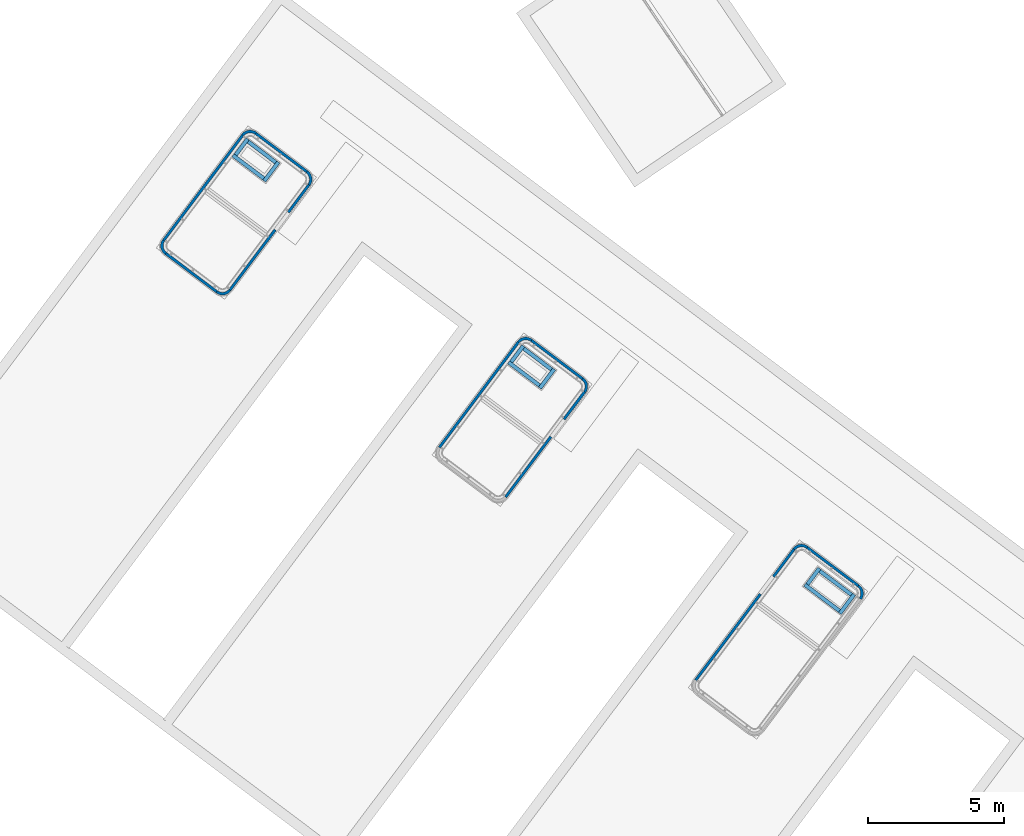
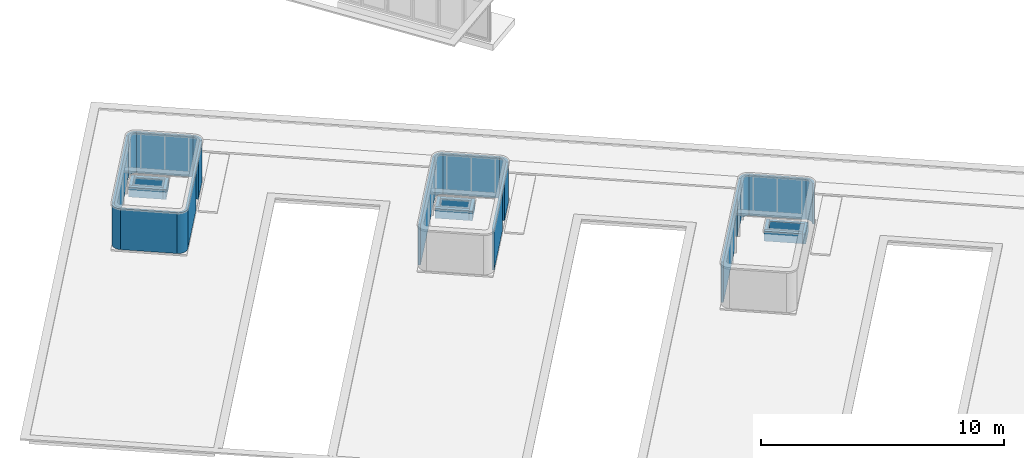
# One storey, part 21 of 28: 29 walls, 3 openings.
"""IFC2X3 building model written with IfcOpenShell, lengths in metres."""

from ifc_helpers import new_model, entity, si_unit, converted_unit, derived_unit, direction, frame, frame_2d, origin, origin_2d_with_axis, place, context, subcontext, project, spatial, polyline, circle_curve, parameter, trimmed, segment, composite_curve, rectangle, outline, extrude, material, layer, layer_set, layer_usage, type_object, element, save


model = new_model("IFC2X3")

# Units and contexts
model_context = context("Model", 3, precision=1e-05, world=origin(), true_north=direction((6.123031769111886e-17, 1.0)))
body_context = subcontext(model_context, "Body", "Model", "MODEL_VIEW")
ifc_project = project(units=[si_unit("LENGTHUNIT", "METRE"), si_unit("AREAUNIT", "SQUARE_METRE"), si_unit("VOLUMEUNIT", "CUBIC_METRE"), converted_unit("PLANEANGLEUNIT", "DEGREE", entity("IfcRatioMeasure", 0.017453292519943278), si_unit("PLANEANGLEUNIT", "RADIAN"), dimensions=[0, 0, 0, 0, 0, 0, 0]), si_unit("MASSUNIT", "GRAM", prefix="KILO"), derived_unit("MASSDENSITYUNIT", [(si_unit("MASSUNIT", "GRAM", prefix="KILO"), 1), (si_unit("LENGTHUNIT", "METRE"), -3)]), derived_unit("IONCONCENTRATIONUNIT", [(si_unit("MASSUNIT", "GRAM", prefix="KILO"), 1), (si_unit("LENGTHUNIT", "METRE"), -3)]), derived_unit("MOMENTOFINERTIAUNIT", [(si_unit("LENGTHUNIT", "METRE"), 4)]), si_unit("TIMEUNIT", "SECOND"), si_unit("FREQUENCYUNIT", "HERTZ"), si_unit("THERMODYNAMICTEMPERATUREUNIT", "DEGREE_CELSIUS"), derived_unit("THERMALTRANSMITTANCEUNIT", [(si_unit("MASSUNIT", "GRAM", prefix="KILO"), 1), (si_unit("THERMODYNAMICTEMPERATUREUNIT", "KELVIN"), -1), (si_unit("TIMEUNIT", "SECOND"), -3)]), derived_unit("THERMALCONDUCTANCEUNIT", [(si_unit("MASSUNIT", "GRAM", prefix="KILO"), 1), (si_unit("THERMODYNAMICTEMPERATUREUNIT", "KELVIN"), -1), (si_unit("TIMEUNIT", "SECOND"), -3), (si_unit("LENGTHUNIT", "METRE"), 1)]), derived_unit("VOLUMETRICFLOWRATEUNIT", [(si_unit("LENGTHUNIT", "METRE"), 3), (si_unit("TIMEUNIT", "SECOND"), -1)]), derived_unit("MASSFLOWRATEUNIT", [(si_unit("MASSUNIT", "GRAM", prefix="KILO"), 1), (si_unit("TIMEUNIT", "SECOND"), -1)]), derived_unit("ROTATIONALFREQUENCYUNIT", [(si_unit("TIMEUNIT", "SECOND"), -1)]), si_unit("ELECTRICCURRENTUNIT", "AMPERE"), si_unit("ELECTRICVOLTAGEUNIT", "VOLT"), si_unit("POWERUNIT", "WATT"), si_unit("FORCEUNIT", "NEWTON", prefix="KILO"), si_unit("ILLUMINANCEUNIT", "LUX"), si_unit("LUMINOUSFLUXUNIT", "LUMEN"), si_unit("LUMINOUSINTENSITYUNIT", "CANDELA"), derived_unit("USERDEFINED", [(si_unit("MASSUNIT", "GRAM", prefix="KILO"), -1), (si_unit("LENGTHUNIT", "METRE"), -2), (si_unit("TIMEUNIT", "SECOND"), 3), (si_unit("LUMINOUSFLUXUNIT", "LUMEN"), 1)]), derived_unit("USERDEFINED", [(si_unit("MASSUNIT", "GRAM", prefix="KILO"), 1), (si_unit("TIMEUNIT", "SECOND"), -3), (si_unit("LENGTHUNIT", "METRE"), 3), (si_unit("ELECTRICCURRENTUNIT", "AMPERE"), -2)]), derived_unit("SOUNDPOWERUNIT", [(si_unit("MASSUNIT", "GRAM", prefix="KILO"), 1), (si_unit("TIMEUNIT", "SECOND"), -3), (si_unit("LENGTHUNIT", "METRE"), 2)]), derived_unit("SOUNDPRESSUREUNIT", [(si_unit("MASSUNIT", "GRAM", prefix="KILO"), 1), (si_unit("LENGTHUNIT", "METRE"), -1), (si_unit("TIMEUNIT", "SECOND"), -2)]), derived_unit("LINEARVELOCITYUNIT", [(si_unit("LENGTHUNIT", "METRE"), 1), (si_unit("TIMEUNIT", "SECOND"), -1)]), si_unit("PRESSUREUNIT", "PASCAL"), derived_unit("USERDEFINED", [(si_unit("MASSUNIT", "GRAM", prefix="KILO"), 1), (si_unit("LENGTHUNIT", "METRE"), -2), (si_unit("TIMEUNIT", "SECOND"), -2)]), derived_unit("LINEARFORCEUNIT", [(si_unit("MASSUNIT", "GRAM", prefix="KILO"), 1), (si_unit("TIMEUNIT", "SECOND"), -2)]), derived_unit("PLANARFORCEUNIT", [(si_unit("MASSUNIT", "GRAM", prefix="KILO"), 1), (si_unit("LENGTHUNIT", "METRE"), -1), (si_unit("TIMEUNIT", "SECOND"), -2)]), derived_unit("SPECIFICHEATCAPACITYUNIT", [(si_unit("THERMODYNAMICTEMPERATUREUNIT", "KELVIN"), -1), (si_unit("LENGTHUNIT", "METRE"), 2), (si_unit("TIMEUNIT", "SECOND"), -2)]), derived_unit("HEATINGVALUEUNIT", [(si_unit("LENGTHUNIT", "METRE"), 2), (si_unit("TIMEUNIT", "SECOND"), -2)]), derived_unit("VAPORPERMEABILITYUNIT", [(si_unit("LENGTHUNIT", "METRE"), -1), (si_unit("TIMEUNIT", "SECOND"), 1)]), derived_unit("DYNAMICVISCOSITYUNIT", [(si_unit("MASSUNIT", "GRAM", prefix="KILO"), 1), (si_unit("TIMEUNIT", "SECOND"), -1), (si_unit("LENGTHUNIT", "METRE"), -1)]), derived_unit("THERMALEXPANSIONCOEFFICIENTUNIT", [(si_unit("THERMODYNAMICTEMPERATUREUNIT", "KELVIN"), -1)]), derived_unit("MODULUSOFELASTICITYUNIT", [(si_unit("MASSUNIT", "GRAM", prefix="KILO"), 1), (si_unit("LENGTHUNIT", "METRE"), -1), (si_unit("TIMEUNIT", "SECOND"), -2)]), derived_unit("ISOTHERMALMOISTURECAPACITYUNIT", [(si_unit("LENGTHUNIT", "METRE"), 3), (si_unit("MASSUNIT", "GRAM", prefix="KILO"), -1)]), derived_unit("MOISTUREDIFFUSIVITYUNIT", [(si_unit("TIMEUNIT", "SECOND"), -1), (si_unit("LENGTHUNIT", "METRE"), 2)])], contexts=[model_context])

# Site, building, storey
site_placement = place(None, frame((0.0, 0.0, 235.0), z_axis=(0.0, 0.0, 1.0), x_axis=(-0.7996477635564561, 0.6004693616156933, 0.0)))
site = spatial("IfcSite", under=ifc_project, at=site_placement, Name="Default", CompositionType="ELEMENT")
building_placement = place(site_placement, origin())
building = spatial("IfcBuilding", under=site, at=building_placement, CompositionType="ELEMENT")
storey_placement = place(building_placement, frame((0.0, 0.0, 3.400000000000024)))
storey = spatial("IfcBuildingStorey", under=building, at=storey_placement, Name="PC- Coberta STR", CompositionType="ELEMENT", Elevation=3.400000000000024)

# Walls
ifc_material_1 = material(Name="_Ceràmica- ENV")
ifc_layer_1 = layer(ifc_material_1, 0.14)
ifc_layer_set_1 = layer_set([ifc_layer_1], Name="Muro básico:ENV- Ceràmic- 14 cm")
ifc_layer_usage_1 = layer_usage(ifc_layer_set_1, "AXIS2", "NEGATIVE", 0.07)
wall_type_1 = type_object("IfcWallType", Name="Muro básico:ENV- Ceràmic- 14 cm", PredefinedType="STANDARD", material=ifc_layer_set_1)
wall_1_placement = place(storey_placement, frame((58.31014768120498, -37.30018994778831, 0.0), z_axis=(0.0, 0.0, 1.0), x_axis=(0.0, 1.0, 0.0)))
element("IfcWallStandardCase", 1, at=wall_1_placement, inside=storey, type_object=wall_type_1, material=ifc_layer_usage_1, Name="Muro básico:ENV- Ceràmic- 14 cm", ObjectType="Muro básico:ENV- Ceràmic- 14 cm", context=body_context, shape_type="SweptSolid", body=[
    extrude(rectangle(XDim=0.8800000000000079, YDim=0.14000000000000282, at=frame_2d((0.44000000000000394, 0.0), x_axis=(-1.0, 0.0))), origin(), (0.0, 0.0, 1.0), 0.5),
])
wall_2_placement = place(storey_placement, frame((58.38014768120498, -36.49018994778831, 0.0)))
element("IfcWallStandardCase", 2, at=wall_2_placement, inside=storey, type_object=wall_type_1, material=ifc_layer_usage_1, Name="Muro básico:ENV- Ceràmic- 14 cm", ObjectType="Muro básico:ENV- Ceràmic- 14 cm", context=body_context, shape_type="SweptSolid", body=[
    extrude(rectangle(XDim=1.4199999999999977, YDim=0.14000000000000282, at=frame_2d((0.7099999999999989, 2.3592239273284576e-16), x_axis=(-1.0, 0.0))), origin(), (0.0, 0.0, 1.0), 0.5),
])
wall_3_placement = place(storey_placement, frame((59.730147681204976, -36.56018994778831, 0.0), z_axis=(0.0, 0.0, 1.0), x_axis=(0.0, -1.0, 0.0)))
element("IfcWallStandardCase", 3, at=wall_3_placement, inside=storey, type_object=wall_type_1, material=ifc_layer_usage_1, Name="Muro básico:ENV- Ceràmic- 14 cm", ObjectType="Muro básico:ENV- Ceràmic- 14 cm", context=body_context, shape_type="SweptSolid", body=[
    extrude(rectangle(XDim=0.740000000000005, YDim=0.14000000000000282, at=frame_2d((0.3700000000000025, 0.0), x_axis=(-1.0, 0.0))), origin(), (0.0, 0.0, 1.0), 0.5),
])
wall_4_placement = place(storey_placement, frame((59.660147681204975, -37.23018994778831, 0.0), z_axis=(0.0, 0.0, 1.0), x_axis=(-1.0, 0.0, 0.0)))
element("IfcWallStandardCase", 4, at=wall_4_placement, inside=storey, type_object=wall_type_1, material=ifc_layer_usage_1, Name="Muro básico:ENV- Ceràmic- 14 cm", ObjectType="Muro básico:ENV- Ceràmic- 14 cm", context=body_context, shape_type="SweptSolid", body=[
    extrude(rectangle(XDim=1.279999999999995, YDim=0.14000000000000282, at=frame_2d((0.6399999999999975, 0.0), x_axis=(-1.0, 0.0))), origin(), (0.0, 0.0, 1.0), 0.5),
])
wall_5_placement = place(storey_placement, frame((71.01014768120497, -37.300189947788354, 0.0), z_axis=(0.0, 0.0, 1.0), x_axis=(0.0, 1.0, 0.0)))
element("IfcWallStandardCase", 5, at=wall_5_placement, inside=storey, type_object=wall_type_1, material=ifc_layer_usage_1, Name="Muro básico:ENV- Ceràmic- 14 cm", ObjectType="Muro básico:ENV- Ceràmic- 14 cm", context=body_context, shape_type="SweptSolid", body=[
    extrude(rectangle(XDim=0.8800000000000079, YDim=0.14000000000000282, at=frame_2d((0.44000000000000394, 0.0), x_axis=(-1.0, 0.0))), origin(), (0.0, 0.0, 1.0), 0.5),
])
wall_6_placement = place(storey_placement, frame((71.08014768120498, -36.49018994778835, 0.0)))
element("IfcWallStandardCase", 6, at=wall_6_placement, inside=storey, type_object=wall_type_1, material=ifc_layer_usage_1, Name="Muro básico:ENV- Ceràmic- 14 cm", ObjectType="Muro básico:ENV- Ceràmic- 14 cm", context=body_context, shape_type="SweptSolid", body=[
    extrude(rectangle(XDim=1.4200000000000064, YDim=0.14000000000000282, at=frame_2d((0.7100000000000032, 2.3592239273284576e-16), x_axis=(-1.0, 0.0))), origin(), (0.0, 0.0, 1.0), 0.5),
])
wall_7_placement = place(storey_placement, frame((72.43014768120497, -36.56018994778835, 0.0), z_axis=(0.0, 0.0, 1.0), x_axis=(0.0, -1.0, 0.0)))
element("IfcWallStandardCase", 7, at=wall_7_placement, inside=storey, type_object=wall_type_1, material=ifc_layer_usage_1, Name="Muro básico:ENV- Ceràmic- 14 cm", ObjectType="Muro básico:ENV- Ceràmic- 14 cm", context=body_context, shape_type="SweptSolid", body=[
    extrude(rectangle(XDim=0.740000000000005, YDim=0.14000000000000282, at=frame_2d((0.3700000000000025, 0.0), x_axis=(-1.0, 0.0))), origin(), (0.0, 0.0, 1.0), 0.5),
])
wall_8_placement = place(storey_placement, frame((72.36014768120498, -37.230189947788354, 0.0), z_axis=(0.0, 0.0, 1.0), x_axis=(-1.0, 0.0, 0.0)))
element("IfcWallStandardCase", 8, at=wall_8_placement, inside=storey, type_object=wall_type_1, material=ifc_layer_usage_1, Name="Muro básico:ENV- Ceràmic- 14 cm", ObjectType="Muro básico:ENV- Ceràmic- 14 cm", context=body_context, shape_type="SweptSolid", body=[
    extrude(rectangle(XDim=1.2800000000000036, YDim=0.14000000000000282, at=frame_2d((0.6400000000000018, 0.0), x_axis=(-1.0, 0.0))), origin(), (0.0, 0.0, 1.0), 0.5),
])
wall_9_placement = place(storey_placement, frame((44.49004613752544, -37.30018994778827, 0.0), z_axis=(0.0, 0.0, 1.0), x_axis=(0.0, 1.0, 0.0)))
element("IfcWallStandardCase", 9, at=wall_9_placement, inside=storey, type_object=wall_type_1, material=ifc_layer_usage_1, Name="Muro básico:ENV- Ceràmic- 14 cm", ObjectType="Muro básico:ENV- Ceràmic- 14 cm", context=body_context, shape_type="SweptSolid", body=[
    extrude(rectangle(XDim=0.8800000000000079, YDim=0.14000000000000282, at=frame_2d((0.44000000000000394, 0.0), x_axis=(-1.0, 0.0))), origin(), (0.0, 0.0, 1.0), 0.5),
])
wall_10_placement = place(storey_placement, frame((44.56004613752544, -36.49018994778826, 0.0)))
element("IfcWallStandardCase", 10, at=wall_10_placement, inside=storey, type_object=wall_type_1, material=ifc_layer_usage_1, Name="Muro básico:ENV- Ceràmic- 14 cm", ObjectType="Muro básico:ENV- Ceràmic- 14 cm", context=body_context, shape_type="SweptSolid", body=[
    extrude(rectangle(XDim=1.6011015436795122, YDim=0.14000000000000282, at=frame_2d((0.8005507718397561, 5.412337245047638e-16), x_axis=(-1.0, 0.0))), origin(), (0.0, 0.0, 1.0), 0.5),
])
wall_11_placement = place(storey_placement, frame((46.09114768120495, -36.56018994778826, 0.0), z_axis=(0.0, 0.0, 1.0), x_axis=(0.0, -1.0, 0.0)))
element("IfcWallStandardCase", 11, at=wall_11_placement, inside=storey, type_object=wall_type_1, material=ifc_layer_usage_1, Name="Muro básico:ENV- Ceràmic- 14 cm", ObjectType="Muro básico:ENV- Ceràmic- 14 cm", context=body_context, shape_type="SweptSolid", body=[
    extrude(rectangle(XDim=0.740000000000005, YDim=0.14000000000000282, at=frame_2d((0.3700000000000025, 0.0), x_axis=(-1.0, 0.0))), origin(), (0.0, 0.0, 1.0), 0.5),
])
wall_12_placement = place(storey_placement, frame((46.02114768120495, -37.23018994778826, 0.0), z_axis=(0.0, 0.0, 1.0), x_axis=(-1.0, 0.0, 0.0)))
element("IfcWallStandardCase", 12, at=wall_12_placement, inside=storey, type_object=wall_type_1, material=ifc_layer_usage_1, Name="Muro básico:ENV- Ceràmic- 14 cm", ObjectType="Muro básico:ENV- Ceràmic- 14 cm", context=body_context, shape_type="SweptSolid", body=[
    extrude(rectangle(XDim=1.4611015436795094, YDim=0.14000000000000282, at=frame_2d((0.7305507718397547, 0.0), x_axis=(-1.0, 0.0))), origin(), (0.0, 0.0, 1.0), 0.5),
])
ifc_material_2 = material(Name="_REV- Xapa minionda")
ifc_layer_2 = layer(ifc_material_2, 0.01)
ifc_material_3 = material(Name="_Genèric perfils, muntants, rastrells")
ifc_layer_3 = layer(ifc_material_3, 0.02)
ifc_material_4 = material(Name="_Aillament")
ifc_layer_4 = layer(ifc_material_4, 0.07)
ifc_layer_set_2 = layer_set([ifc_layer_2, ifc_layer_3, ifc_layer_4], Name="Muro básico:REV- Badalot- Xapa + Aillament")
ifc_layer_usage_2 = layer_usage(ifc_layer_set_2, "AXIS2", "POSITIVE", -0.05)
wall_type_2 = type_object("IfcWallType", Name="Muro básico:REV- Badalot- Xapa + Aillament", PredefinedType="STANDARD", material=ifc_layer_set_2)
wall_13_placement = place(storey_placement, frame((59.96018545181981, -37.30335289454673, 0.4), z_axis=(0.0, 0.0, 1.0), x_axis=(0.0, 1.0, 0.0)))
element("IfcWallStandardCase", 13, at=wall_13_placement, inside=storey, type_object=wall_type_2, material=ifc_layer_usage_2, Name="Muro básico:REV- Badalot- Xapa + Aillament", ObjectType="Muro básico:REV- Badalot- Xapa + Aillament", context=body_context, shape_type="SweptSolid", body=[
    extrude(outline(polyline([(4.849322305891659, -0.05000000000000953), (4.848161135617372, 0.04999999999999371), (0.0011611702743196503, 0.04999999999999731), (0.0, -0.050000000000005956), (4.849322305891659, -0.05000000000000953)])), origin(), (0.0, 0.0, 1.0), 2.05),
])

# Wall, opening
ifc_layer_usage_3 = layer_usage(ifc_layer_set_2, "AXIS2", "NEGATIVE", 0.05)
wall_14_placement = place(storey_placement, frame((56.91018541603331, -37.30335289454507, 0.4), z_axis=(0.0, 0.0, 1.0), x_axis=(0.0, 1.0, 0.0)))
wall_14 = element("IfcWallStandardCase", 14, at=wall_14_placement, inside=storey, type_object=wall_type_2, material=ifc_layer_usage_3, Name="Muro básico:REV- Badalot- Xapa + Aillament", ObjectType="Muro básico:REV- Badalot- Xapa + Aillament", context=body_context, shape_type="SweptSolid", body=[
    extrude(outline(polyline([(0.0011611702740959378, -0.050000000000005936), (4.848161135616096, -0.05000000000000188), (4.849322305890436, 0.0500000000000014), (0.0, 0.0499999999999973), (0.0011611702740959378, -0.050000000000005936)])), origin(), (0.0, 0.0, 1.0), 2.05),
])
opening_1_placement = place(wall_14_placement, frame((1.2691455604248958, 1.4739999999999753, 0.0), z_axis=(0.0, 0.0, 1.0), x_axis=(0.0, -1.0, 0.0)))
element("IfcOpeningElement", 15, at=opening_1_placement, cuts=wall_14, Name="Muro básico:REV- Badalot- Xapa + Aillament", ObjectType="Opening", context=body_context, shape_type="SweptSolid", body=[
    extrude(rectangle(XDim=1.999999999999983, YDim=0.8, at=frame_2d((0.0, 0.0), x_axis=(0.0, 1.0))), frame((3.048000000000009, 0.4, 1.0), z_axis=(-1.0, 0.0, 0.0), x_axis=(0.0, -1.0, 0.0)), (0.0, 0.0, 1.0), 3.048),
])

# Walls
wall_15_placement = place(storey_placement, frame((57.26028711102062, -37.64219172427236, 0.4)))
element("IfcWallStandardCase", 16, at=wall_15_placement, inside=storey, type_object=wall_type_2, material=ifc_layer_usage_2, Name="Muro básico:REV- Badalot- Xapa + Aillament", ObjectType="Muro básico:REV- Badalot- Xapa + Aillament", context=body_context, shape_type="SweptSolid", body=[
    extrude(outline(polyline([(2.349369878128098, -0.04999999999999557), (2.3497966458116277, 0.050000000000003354), (0.0, 0.050000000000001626), (0.00042676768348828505, -0.04999999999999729), (2.349369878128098, -0.04999999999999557)])), origin(), (0.0, 0.0, 1.0), 2.05),
])
wall_16_placement = place(storey_placement, frame((59.9601971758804, -37.30227018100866, 0.4), z_axis=(0.0, 0.0, 1.0), x_axis=(0.0, 1.0, 0.0)))
element("IfcWallStandardCase", 17, at=wall_16_placement, inside=storey, type_object=wall_type_2, material=ifc_layer_usage_2, Name="Muro básico:REV- Badalot- Xapa + Aillament", ObjectType="Muro básico:REV- Badalot- Xapa + Aillament", context=body_context, shape_type="SweptSolid", body=[
    extrude(outline(composite_curve([segment(trimmed(circle_curve(frame_2d((0.00752395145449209, 0.3473766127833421), x_axis=(1.0, 0.0)), 0.3974580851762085), [parameter(179.54394851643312)], [parameter(268.7592046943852)], True, "PARAMETER"), True, "CONTINUOUS"), segment(polyline([(-0.0010827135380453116, -0.04998827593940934), (7.845673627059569e-05, 0.050011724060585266)]), True, "CONTINUOUS"), segment(trimmed(circle_curve(frame_2d((0.00752395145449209, 0.3473766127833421), x_axis=(1.0, 0.0)), 0.29745808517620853), [parameter(179.4728344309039)], [parameter(268.5657139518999)], True, "PARAMETER"), False, "CONTINUOUS"), segment(polyline([(-0.2899215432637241, 0.3501134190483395), (-0.38992154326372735, 0.35054018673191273)]), True, "CONTINUOUS")], self_intersect=False)), origin(), (0.0, 0.0, 1.0), 2.05),
])
wall_17_placement = place(storey_placement, frame((56.91017369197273, -37.30227018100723, 0.4), z_axis=(0.0, 0.0, 1.0), x_axis=(0.0, 1.0, 0.0)))
element("IfcWallStandardCase", 18, at=wall_17_placement, inside=storey, type_object=wall_type_2, material=ifc_layer_usage_2, Name="Muro básico:REV- Badalot- Xapa + Aillament", ObjectType="Muro básico:REV- Badalot- Xapa + Aillament", context=body_context, shape_type="SweptSolid", body=[
    extrude(outline(composite_curve([segment(trimmed(circle_curve(frame_2d((0.007523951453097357, -0.34737661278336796), x_axis=(1.0, 0.0)), 0.29745808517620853), [parameter(91.43428604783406)], [parameter(180.52716556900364)], True, "PARAMETER"), False, "CONTINUOUS"), segment(polyline([(7.845673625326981e-05, -0.05001172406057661), (-0.001082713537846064, 0.049988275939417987)]), True, "CONTINUOUS"), segment(trimmed(circle_curve(frame_2d((0.007523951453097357, -0.34737661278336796), x_axis=(1.0, 0.0)), 0.3974580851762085), [parameter(91.24079530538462)], [parameter(180.45605148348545)], True, "PARAMETER"), True, "CONTINUOUS"), segment(polyline([(-0.38992154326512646, -0.35054018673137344), (-0.2899215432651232, -0.3501134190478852)]), True, "CONTINUOUS")], self_intersect=False)), origin(), (0.0, 0.0, 1.0), 2.05),
])
wall_18_placement = place(storey_placement, frame((69.96028711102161, -32.115191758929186, 0.4)))
element("IfcWallStandardCase", 19, at=wall_18_placement, inside=storey, type_object=wall_type_2, material=ifc_layer_usage_3, Name="Muro básico:REV- Badalot- Xapa + Aillament", ObjectType="Muro básico:REV- Badalot- Xapa + Aillament", context=body_context, shape_type="SweptSolid", body=[
    extrude(outline(polyline([(2.349796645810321, -0.0499999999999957), (2.3493698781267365, 0.05000000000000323), (0.0004267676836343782, 0.05000000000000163), (0.0, -0.0499999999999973), (2.349796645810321, -0.0499999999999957)])), origin(), (0.0, 0.0, 1.0), 2.05),
])
wall_19_placement = place(storey_placement, frame((72.66018545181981, -37.30335289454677, 0.4), z_axis=(0.0, 0.0, 1.0), x_axis=(0.0, 1.0, 0.0)))
element("IfcWallStandardCase", 20, at=wall_19_placement, inside=storey, type_object=wall_type_2, material=ifc_layer_usage_2, Name="Muro básico:REV- Badalot- Xapa + Aillament", ObjectType="Muro básico:REV- Badalot- Xapa + Aillament", context=body_context, shape_type="SweptSolid", body=[
    extrude(outline(polyline([(4.849322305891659, -0.05000000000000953), (4.848161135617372, 0.04999999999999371), (0.0011611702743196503, 0.04999999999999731), (0.0, -0.050000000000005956), (4.849322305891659, -0.05000000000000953)])), origin(), (0.0, 0.0, 1.0), 2.05),
])
wall_20_placement = place(storey_placement, frame((72.66019717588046, -32.455113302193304, 0.4), z_axis=(0.0, 0.0, 1.0), x_axis=(0.0, -1.0, 0.0)))
element("IfcWallStandardCase", 21, at=wall_20_placement, inside=storey, type_object=wall_type_2, material=ifc_layer_usage_2, Name="Muro básico:REV- Badalot- Xapa + Aillament", ObjectType="Muro básico:REV- Badalot- Xapa + Aillament", context=body_context, shape_type="SweptSolid", body=[
    extrude(outline(composite_curve([segment(trimmed(circle_curve(frame_2d((0.00752395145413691, -0.3473766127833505), x_axis=(1.0, 0.0)), 0.29745808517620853), [parameter(91.4342860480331)], [parameter(180.5271655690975)], True, "PARAMETER"), False, "CONTINUOUS"), segment(polyline([(7.845673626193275e-05, -0.050011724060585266), (-0.0010827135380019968, 0.04998827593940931)]), True, "CONTINUOUS"), segment(trimmed(circle_curve(frame_2d((0.00752395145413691, -0.3473766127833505), x_axis=(1.0, 0.0)), 0.3974580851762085), [parameter(91.24079530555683)], [parameter(180.45605148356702)], True, "PARAMETER"), True, "CONTINUOUS"), segment(polyline([(-0.38992154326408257, -0.3505401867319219), (-0.2899215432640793, -0.35011341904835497)]), True, "CONTINUOUS")], self_intersect=False)), origin(), (0.0, 0.0, 1.0), 2.05),
])
wall_21_placement = place(storey_placement, frame((69.6101736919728, -32.45511330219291, 0.4), z_axis=(0.0, 0.0, 1.0), x_axis=(0.0, -1.0, 0.0)))
element("IfcWallStandardCase", 22, at=wall_21_placement, inside=storey, type_object=wall_type_2, material=ifc_layer_usage_2, Name="Muro básico:REV- Badalot- Xapa + Aillament", ObjectType="Muro básico:REV- Badalot- Xapa + Aillament", context=body_context, shape_type="SweptSolid", body=[
    extrude(outline(composite_curve([segment(trimmed(circle_curve(frame_2d((0.007523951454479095, 0.3473766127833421), x_axis=(1.0, 0.0)), 0.3974580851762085), [parameter(179.5439485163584)], [parameter(268.7592046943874)], True, "PARAMETER"), True, "CONTINUOUS"), segment(polyline([(-0.00108271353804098, -0.04998827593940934), (7.845673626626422e-05, 0.05001172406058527)]), True, "CONTINUOUS"), segment(trimmed(circle_curve(frame_2d((0.007523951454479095, 0.3473766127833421), x_axis=(1.0, 0.0)), 0.29745808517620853), [parameter(179.47283443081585)], [parameter(268.56571395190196)], True, "PARAMETER"), False, "CONTINUOUS"), segment(polyline([(-0.28992154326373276, 0.3501134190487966), (-0.389921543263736, 0.35054018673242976)]), True, "CONTINUOUS")], self_intersect=False)), origin(), (0.0, 0.0, 1.0), 2.05),
])

# Wall, opening
wall_22_placement = place(storey_placement, frame((69.6101854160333, -37.303352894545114, 0.4), z_axis=(0.0, 0.0, 1.0), x_axis=(0.0, 1.0, 0.0)))
wall_22 = element("IfcWallStandardCase", 23, at=wall_22_placement, inside=storey, type_object=wall_type_2, material=ifc_layer_usage_3, Name="Muro básico:REV- Badalot- Xapa + Aillament", ObjectType="Muro básico:REV- Badalot- Xapa + Aillament", context=body_context, shape_type="SweptSolid", body=[
    extrude(outline(polyline([(0.0011611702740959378, -0.050000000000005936), (4.848161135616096, -0.05000000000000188), (4.849322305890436, 0.0500000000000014), (0.0, 0.0499999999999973), (0.0011611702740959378, -0.050000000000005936)])), origin(), (0.0, 0.0, 1.0), 2.05),
])
opening_2_placement = place(wall_22_placement, frame((1.2691455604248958, 1.4739999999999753, 0.0), z_axis=(0.0, 0.0, 1.0), x_axis=(0.0, -1.0, 0.0)))
element("IfcOpeningElement", 24, at=opening_2_placement, cuts=wall_22, Name="Muro básico:REV- Badalot- Xapa + Aillament", ObjectType="Opening", context=body_context, shape_type="SweptSolid", body=[
    extrude(rectangle(XDim=1.999999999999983, YDim=0.8, at=frame_2d((-4.3298697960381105e-15, 0.0), x_axis=(0.0, 1.0))), frame((3.0480000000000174, 0.3999999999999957, 1.0), z_axis=(-1.0, 0.0, 0.0), x_axis=(0.0, -1.0, 0.0)), (0.0, 0.0, 1.0), 3.048),
])

# Walls
wall_23_placement = place(storey_placement, frame((69.96028711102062, -37.6421917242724, 0.4)))
element("IfcWallStandardCase", 25, at=wall_23_placement, inside=storey, type_object=wall_type_2, material=ifc_layer_usage_2, Name="Muro básico:REV- Badalot- Xapa + Aillament", ObjectType="Muro básico:REV- Badalot- Xapa + Aillament", context=body_context, shape_type="SweptSolid", body=[
    extrude(outline(polyline([(2.349369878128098, -0.04999999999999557), (2.3497966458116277, 0.050000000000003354), (0.0, 0.050000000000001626), (0.00042676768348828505, -0.04999999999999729), (2.349369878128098, -0.04999999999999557)])), origin(), (0.0, 0.0, 1.0), 2.05),
])
wall_24_placement = place(storey_placement, frame((72.6601971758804, -37.302270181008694, 0.4), z_axis=(0.0, 0.0, 1.0), x_axis=(0.0, 1.0, 0.0)))
element("IfcWallStandardCase", 26, at=wall_24_placement, inside=storey, type_object=wall_type_2, material=ifc_layer_usage_2, Name="Muro básico:REV- Badalot- Xapa + Aillament", ObjectType="Muro básico:REV- Badalot- Xapa + Aillament", context=body_context, shape_type="SweptSolid", body=[
    extrude(outline(composite_curve([segment(trimmed(circle_curve(frame_2d((0.007523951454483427, 0.3473766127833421), x_axis=(1.0, 0.0)), 0.3974580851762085), [parameter(179.54394851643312)], [parameter(268.75920469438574)], True, "PARAMETER"), True, "CONTINUOUS"), segment(polyline([(-0.0010827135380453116, -0.04998827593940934), (7.845673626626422e-05, 0.050011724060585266)]), True, "CONTINUOUS"), segment(trimmed(circle_curve(frame_2d((0.007523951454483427, 0.3473766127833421), x_axis=(1.0, 0.0)), 0.29745808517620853), [parameter(179.4728344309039)], [parameter(268.5657139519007)], True, "PARAMETER"), False, "CONTINUOUS"), segment(polyline([(-0.28992154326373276, 0.3501134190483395), (-0.389921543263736, 0.35054018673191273)]), True, "CONTINUOUS")], self_intersect=False)), origin(), (0.0, 0.0, 1.0), 2.05),
])
wall_25_placement = place(storey_placement, frame((69.61017369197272, -37.30227018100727, 0.4), z_axis=(0.0, 0.0, 1.0), x_axis=(0.0, 1.0, 0.0)))
element("IfcWallStandardCase", 27, at=wall_25_placement, inside=storey, type_object=wall_type_2, material=ifc_layer_usage_2, Name="Muro básico:REV- Badalot- Xapa + Aillament", ObjectType="Muro básico:REV- Badalot- Xapa + Aillament", context=body_context, shape_type="SweptSolid", body=[
    extrude(outline(composite_curve([segment(trimmed(circle_curve(frame_2d((0.007523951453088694, -0.34737661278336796), x_axis=(1.0, 0.0)), 0.29745808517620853), [parameter(91.4342860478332)], [parameter(180.5271655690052)], True, "PARAMETER"), False, "CONTINUOUS"), segment(polyline([(7.845673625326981e-05, -0.05001172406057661), (-0.001082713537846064, 0.049988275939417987)]), True, "CONTINUOUS"), segment(trimmed(circle_curve(frame_2d((0.007523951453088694, -0.34737661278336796), x_axis=(1.0, 0.0)), 0.3974580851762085), [parameter(91.24079530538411)], [parameter(180.45605148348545)], True, "PARAMETER"), True, "CONTINUOUS"), segment(polyline([(-0.3899215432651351, -0.35054018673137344), (-0.28992154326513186, -0.35011341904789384)]), True, "CONTINUOUS")], self_intersect=False)), origin(), (0.0, 0.0, 1.0), 2.05),
])

# Wall, opening
wall_26_placement = place(storey_placement, frame((47.26004612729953, -37.30335289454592, 0.4), z_axis=(0.0, 0.0, 1.0), x_axis=(0.0, 1.0, 0.0)))
wall_26 = element("IfcWallStandardCase", 28, at=wall_26_placement, inside=storey, type_object=wall_type_2, material=ifc_layer_usage_2, Name="Muro básico:REV- Badalot- Xapa + Aillament", ObjectType="Muro básico:REV- Badalot- Xapa + Aillament", context=body_context, shape_type="SweptSolid", body=[
    extrude(outline(polyline([(0.0, -0.050000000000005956), (6.035253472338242, -0.05000000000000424), (6.034092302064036, 0.049999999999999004), (0.001161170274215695, 0.04999999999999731), (0.0, -0.050000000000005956)])), origin(), (0.0, 0.0, 1.0), 2.05),
])
opening_3_placement = place(wall_26_placement, frame((1.2691455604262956, 1.573999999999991, 0.0), z_axis=(0.0, 0.0, 1.0), x_axis=(0.0, -1.0, 0.0)))
element("IfcOpeningElement", 29, at=opening_3_placement, cuts=wall_26, Name="Muro básico:REV- Badalot- Xapa + Aillament", ObjectType="Opening", context=body_context, shape_type="SweptSolid", body=[
    extrude(rectangle(XDim=1.999999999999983, YDim=0.8, at=origin_2d_with_axis()), frame((3.048000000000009, 0.4, 1.0), z_axis=(-1.0, 0.0, 0.0), x_axis=(0.0, 0.0, 1.0)), (0.0, 0.0, 1.0), 3.048),
])

# Walls
wall_27_placement = place(storey_placement, frame((44.56014778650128, -37.642191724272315, 0.4)))
element("IfcWallStandardCase", 30, at=wall_27_placement, inside=storey, type_object=wall_type_2, material=ifc_layer_usage_2, Name="Muro básico:REV- Badalot- Xapa + Aillament", ObjectType="Muro básico:REV- Badalot- Xapa + Aillament", context=body_context, shape_type="SweptSolid", body=[
    extrude(outline(polyline([(2.349369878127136, -0.04999999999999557), (2.3497966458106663, 0.050000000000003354), (0.0, 0.050000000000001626), (0.000426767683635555, -0.04999999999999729), (2.349369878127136, -0.04999999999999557)])), origin(), (0.0, 0.0, 1.0), 2.05),
])
wall_28_placement = place(storey_placement, frame((47.260057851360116, -37.30227018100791, 0.4), z_axis=(0.0, 0.0, 1.0), x_axis=(0.0, 1.0, 0.0)))
element("IfcWallStandardCase", 31, at=wall_28_placement, inside=storey, type_object=wall_type_2, material=ifc_layer_usage_2, Name="Muro básico:REV- Badalot- Xapa + Aillament", ObjectType="Muro básico:REV- Badalot- Xapa + Aillament", context=body_context, shape_type="SweptSolid", body=[
    extrude(outline(composite_curve([segment(polyline([(-0.0010827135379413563, -0.04998827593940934), (7.845673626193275e-05, 0.050011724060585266)]), True, "CONTINUOUS"), segment(trimmed(circle_curve(frame_2d((0.007523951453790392, 0.3473766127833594), x_axis=(1.0, 0.0)), 0.29745808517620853), [parameter(179.47283443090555)], [parameter(268.5657139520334)], True, "PARAMETER"), False, "CONTINUOUS"), segment(polyline([(-0.2899215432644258, 0.35011341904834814), (-0.38992154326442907, 0.3505401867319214)]), True, "CONTINUOUS"), segment(trimmed(circle_curve(frame_2d((0.007523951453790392, 0.3473766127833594), x_axis=(1.0, 0.0)), 0.3974580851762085), [parameter(179.54394851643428)], [parameter(268.7592046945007)], True, "PARAMETER"), True, "CONTINUOUS")], self_intersect=False)), origin(), (0.0, 0.0, 1.0), 2.05),
])
wall_29_placement = place(storey_placement, frame((44.21003436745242, -37.30227018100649, 0.4), z_axis=(0.0, 0.0, 1.0), x_axis=(0.0, 1.0, 0.0)))
element("IfcWallStandardCase", 32, at=wall_29_placement, inside=storey, type_object=wall_type_2, material=ifc_layer_usage_2, Name="Muro básico:REV- Badalot- Xapa + Aillament", ObjectType="Muro básico:REV- Badalot- Xapa + Aillament", context=body_context, shape_type="SweptSolid", body=[
    extrude(outline(composite_curve([segment(trimmed(circle_curve(frame_2d((0.007523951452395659, -0.3473766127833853), x_axis=(1.0, 0.0)), 0.29745808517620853), [parameter(91.43428604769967)], [parameter(180.5271655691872)], True, "PARAMETER"), False, "CONTINUOUS"), segment(polyline([(7.845673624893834e-05, -0.05001172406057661), (-0.0010827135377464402, 0.049988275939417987)]), True, "CONTINUOUS"), segment(trimmed(circle_curve(frame_2d((0.007523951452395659, -0.3473766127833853), x_axis=(1.0, 0.0)), 0.3974580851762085), [parameter(91.24079530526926)], [parameter(180.45605148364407)], True, "PARAMETER"), True, "CONTINUOUS"), segment(polyline([(-0.38992154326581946, -0.350540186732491), (-0.2899215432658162, -0.35011341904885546)]), True, "CONTINUOUS")], self_intersect=False)), origin(), (0.0, 0.0, 1.0), 2.05),
])

save(model, "model.ifc")
